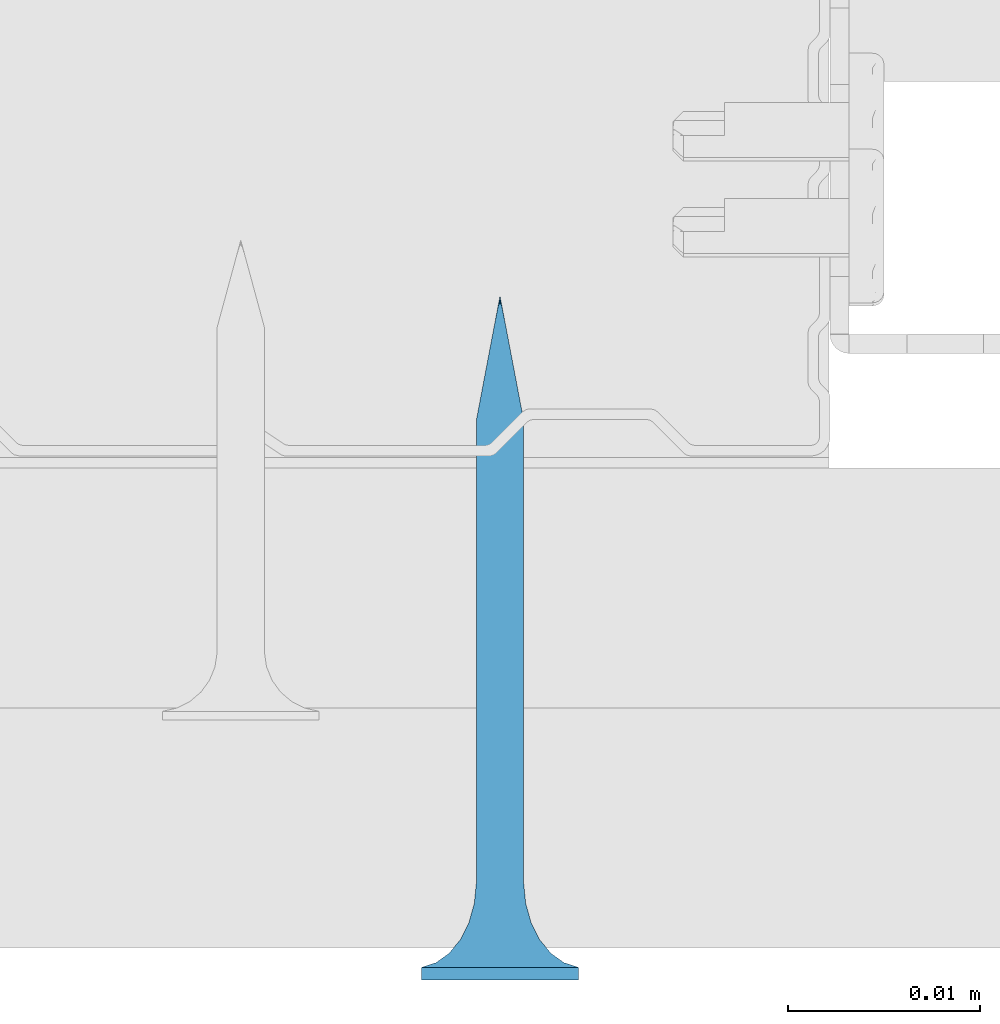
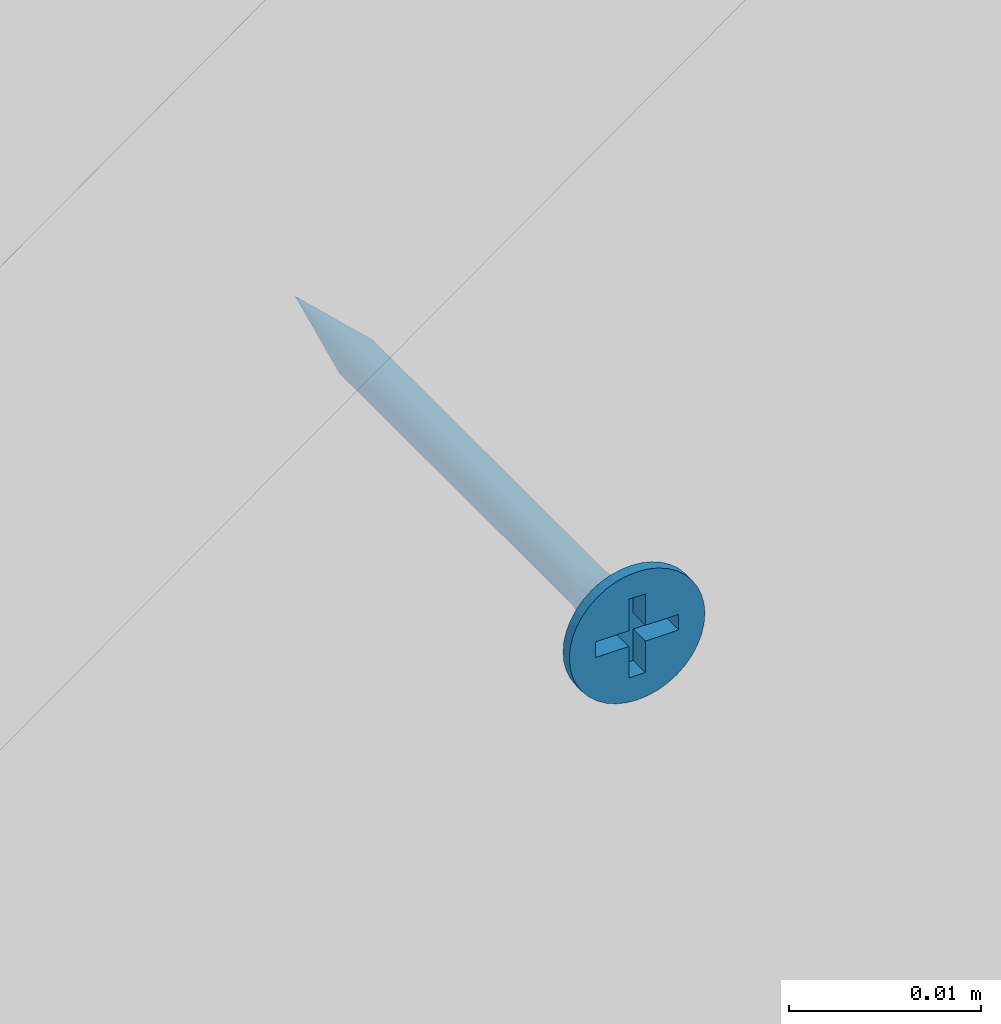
# One storey, part 7 of 48: 1 wall.
"""IFC2X3 building model written with IfcOpenShell, lengths in millimetres."""

from ifc_helpers import new_model, entity, si_unit, converted_unit, direction, frame, origin, origin_with_axes, place, context, project, spatial, faceted_brep, element, save


model = new_model("IFC2X3")

# Units and contexts
model_context = context("Model", 3, precision=1e-05, world=origin(), true_north=direction((0.0, 1.0, 0.0)))
ifc_project = project(units=[si_unit("LENGTHUNIT", "METRE", prefix="MILLI"), si_unit("AREAUNIT", "SQUARE_METRE"), si_unit("VOLUMEUNIT", "CUBIC_METRE"), converted_unit("PLANEANGLEUNIT", "DEGREE", entity("IfcPlaneAngleMeasure", 0.01745), si_unit("PLANEANGLEUNIT", "RADIAN"), dimensions=[0, 0, 0, 0, 0, 0, 0]), si_unit("SOLIDANGLEUNIT", "STERADIAN"), si_unit("MASSUNIT", "GRAM"), si_unit("TIMEUNIT", "SECOND"), si_unit("THERMODYNAMICTEMPERATUREUNIT", "DEGREE_CELSIUS"), si_unit("LUMINOUSINTENSITYUNIT", "LUMEN")], contexts=[model_context])

# Site, building, storey
site_placement = place(None, origin_with_axes())
site = spatial("IfcSite", under=ifc_project, at=site_placement, Name="Default Site", CompositionType="ELEMENT")
building_placement = place(site_placement, origin_with_axes())
building = spatial("IfcBuilding", under=site, at=building_placement, Name="Default Building", CompositionType="ELEMENT")
storey_placement = place(building_placement, origin_with_axes())
storey = spatial("IfcBuildingStorey", under=building, at=storey_placement, Name="Default Building Storey", CompositionType="ELEMENT", Elevation=0.0)

# Wall
wall_placement = place(storey_placement, frame((3036.210357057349, 6753.764107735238, -213.29814681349), z_axis=(0.0, 0.0, 1.0), x_axis=(1.0, 4.718447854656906e-16, 0.0)))
element("IfcWall", 1, at=wall_placement, inside=storey, Name="Wkręt RIGIPS TN 35", context=model_context, shape_type="Brep", body=[
    faceted_brep([(-141.5377463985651, -4832.598051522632, 555.8000000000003), (-141.5377463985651, -4833.259713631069, 555.8000000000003), (-141.4875329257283, -4833.259713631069, 555.1619773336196), (-141.4875329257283, -4832.598051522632, 555.1619773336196), (-141.3381289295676, -4833.259713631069, 554.5396649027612), (-141.3381289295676, -4832.598051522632, 554.5396649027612), (-141.0932132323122, -4833.259713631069, 553.9483861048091), (-141.0932132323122, -4832.598051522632, 553.9483861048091), (-140.7588164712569, -4833.259713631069, 553.4027001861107), (-140.7588164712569, -4832.598051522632, 553.4027001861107), (-140.3431726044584, -4833.259713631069, 552.9160437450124), (-140.4541727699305, -4832.598051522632, 553.0314907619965), (-140.1080097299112, -4832.598051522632, 552.6986614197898), (-139.8565161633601, -4833.259713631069, 552.5003998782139), (-139.7251262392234, -4832.598051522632, 552.4088262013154), (-139.3108302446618, -4833.259713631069, 552.1660031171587), (-139.3108302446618, -4832.598051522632, 552.1660031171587), (-138.8708651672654, -4832.598051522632, 551.9735584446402), (-138.7195514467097, -4833.259713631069, 551.9210874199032), (-138.4113302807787, -4832.598051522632, 551.8341600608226), (-137.9385961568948, -4832.598051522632, 551.7497404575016), (-138.0972390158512, -4833.259713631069, 551.7716834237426), (-137.4592163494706, -4833.259713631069, 551.7214699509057), (-137.4592163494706, -4832.598051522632, 551.7214699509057), (-136.8211936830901, -4833.259713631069, 551.7716834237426), (-136.8211936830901, -4832.598051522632, 551.7716834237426), (-136.1988812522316, -4833.259713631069, 551.9210874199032), (-136.1988812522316, -4832.598051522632, 551.9210874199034), (-135.6076024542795, -4833.259713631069, 552.1660031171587), (-135.6076024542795, -4832.598051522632, 552.1660031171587), (-135.0619165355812, -4833.259713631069, 552.5003998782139), (-135.0619165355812, -4832.598051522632, 552.5003998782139), (-134.5752600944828, -4833.259713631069, 552.9160437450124), (-134.5752600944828, -4832.598051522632, 552.9160437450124), (-134.1596162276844, -4833.259713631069, 553.4027001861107), (-134.1596162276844, -4832.598051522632, 553.4027001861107), (-133.8252194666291, -4833.259713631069, 553.9483861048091), (-133.8252194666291, -4832.598051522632, 553.9483861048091), (-133.5803037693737, -4833.259713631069, 554.5396649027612), (-133.5803037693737, -4832.598051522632, 554.5396649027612), (-133.430899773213, -4833.259713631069, 556.4380226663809), (-133.430899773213, -4832.598051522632, 556.4380226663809), (-133.3806863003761, -4832.598051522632, 555.8000000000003), (-133.3806863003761, -4833.259713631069, 555.8000000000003), (-133.430899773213, -4832.598051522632, 555.1619773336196), (-133.430899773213, -4833.259713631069, 555.1619773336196), (-133.5803037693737, -4833.259713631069, 557.0603350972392), (-133.5803037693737, -4832.598051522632, 557.0603350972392), (-133.8252194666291, -4833.259713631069, 557.6516138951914), (-133.8252194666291, -4832.598051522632, 557.6516138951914), (-134.1596162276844, -4833.259713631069, 558.1972998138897), (-134.1596162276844, -4832.598051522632, 558.1972998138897), (-134.5752600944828, -4833.259713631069, 558.683956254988), (-134.5752600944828, -4832.598051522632, 558.683956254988), (-135.0619165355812, -4833.259713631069, 559.0996001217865), (-135.0619165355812, -4832.598051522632, 559.0996001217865), (-135.6076024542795, -4833.259713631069, 559.4339968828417), (-135.6076024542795, -4832.598051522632, 559.4339968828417), (-136.1988812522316, -4833.259713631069, 559.6789125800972), (-136.1988812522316, -4832.598051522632, 559.6789125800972), (-136.8211936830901, -4833.259713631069, 559.8283165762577), (-136.8211936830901, -4832.598051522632, 559.8283165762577), (-137.4592163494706, -4833.259713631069, 559.8785300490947), (-137.4592163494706, -4832.598051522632, 559.8785300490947), (-138.0972390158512, -4833.259713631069, 559.8283165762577), (-138.0972390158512, -4832.598051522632, 559.8283165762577), (-138.7195514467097, -4833.259713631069, 559.6789125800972), (-138.7195514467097, -4832.598051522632, 559.6789125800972), (-139.3108302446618, -4833.259713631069, 559.4339968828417), (-139.3108302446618, -4832.598051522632, 559.4339968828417), (-139.8565161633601, -4833.259713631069, 559.0996001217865), (-139.8565161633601, -4832.598051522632, 559.0996001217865), (-140.3431726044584, -4833.259713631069, 558.683956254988), (-140.3431726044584, -4832.598051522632, 558.683956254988), (-140.7588164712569, -4833.259713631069, 558.1972998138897), (-140.7588164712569, -4832.598051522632, 558.1972998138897), (-141.0932132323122, -4833.259713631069, 557.6516138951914), (-141.0932132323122, -4832.598051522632, 557.6516138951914), (-141.3381289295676, -4833.259713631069, 557.0603350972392), (-141.3381289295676, -4832.598051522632, 557.0603350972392), (-141.4875329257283, -4833.259713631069, 556.4380226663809), (-141.4875329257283, -4832.598051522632, 556.4380226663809), (-137.8060615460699, -4829.281368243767, 554.5055560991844), (-137.4592163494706, -4828.206294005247, 554.5693795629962), (-137.651727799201, -4828.206294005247, 554.5845305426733), (-137.4592163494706, -4829.281368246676, 554.4598930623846), (-137.83949897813, -4828.206294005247, 554.6296104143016), (-138.1292698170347, -4829.281368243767, 554.639433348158), (-138.0179063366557, -4828.206294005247, 554.7035091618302), (-138.1825568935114, -4828.206294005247, 554.804407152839), (-138.4068150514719, -4829.281368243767, 554.8524012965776), (-138.329396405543, -4828.206294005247, 554.929819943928), (-138.6197830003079, -4829.281368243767, 555.1299465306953), (-138.4548091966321, -4828.206294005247, 555.0766594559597), (-138.5557071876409, -4828.206294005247, 555.2413100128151), (-138.7536602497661, -4829.281368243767, 555.4531548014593), (-138.6296059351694, -4828.206294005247, 555.4197173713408), (-138.6746858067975, -4828.206294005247, 555.60748855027), (-138.7993232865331, -4829.281368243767, 555.7999999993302), (-138.6898367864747, -4828.206294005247, 555.8000000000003), (-138.753660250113, -4829.281368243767, 556.1468451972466), (-138.6746858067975, -4828.206294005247, 555.9925114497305), (-138.6296059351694, -4828.206294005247, 556.1802826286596), (-138.6197830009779, -4829.281368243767, 556.4700534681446), (-138.5557071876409, -4828.206294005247, 556.3586899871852), (-138.4548091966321, -4828.206294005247, 556.5233405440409), (-138.4068150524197, -4829.281368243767, 556.7475987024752), (-138.329396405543, -4828.206294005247, 556.6701800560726), (-138.1292698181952, -4829.281368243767, 556.9605666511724), (-138.1825568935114, -4828.206294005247, 556.7955928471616), (-138.0179063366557, -4828.206294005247, 556.8964908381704), (-137.8060615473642, -4829.281368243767, 557.0944439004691), (-137.83949897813, -4828.206294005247, 556.9703895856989), (-137.651727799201, -4828.206294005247, 557.0154694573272), (-137.4592163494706, -4829.281368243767, 557.1401069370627), (-137.4592163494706, -4828.206294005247, 557.0306204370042), (-137.112371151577, -4829.281368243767, 557.0944439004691), (-137.2667048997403, -4828.206294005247, 557.0154694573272), (-137.0789337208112, -4828.206294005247, 556.9703895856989), (-136.7891628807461, -4829.281368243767, 556.9605666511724), (-136.9005263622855, -4828.206294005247, 556.8964908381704), (-136.7358758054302, -4828.206294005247, 556.7955928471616), (-136.5116176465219, -4829.281368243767, 556.7475987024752), (-136.5890362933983, -4828.206294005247, 556.6701800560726), (-136.2986496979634, -4829.281368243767, 556.4700534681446), (-136.4636235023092, -4828.206294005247, 556.5233405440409), (-136.3627255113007, -4828.206294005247, 556.3586899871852), (-136.1647724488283, -4829.281368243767, 556.1468451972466), (-136.2888267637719, -4828.206294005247, 556.1802826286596), (-136.2437468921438, -4828.206294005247, 555.9925114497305), (-136.1191094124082, -4829.281368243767, 555.7999999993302), (-136.2285959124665, -4828.206294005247, 555.8000000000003), (-136.1647724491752, -4829.281368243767, 555.4531548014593), (-136.2437468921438, -4828.206294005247, 555.60748855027), (-136.2888267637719, -4828.206294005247, 555.4197173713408), (-136.2986496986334, -4829.281368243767, 555.1299465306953), (-136.3627255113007, -4828.206294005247, 555.2413100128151), (-136.4636235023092, -4828.206294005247, 555.0766594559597), (-136.5116176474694, -4829.281368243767, 554.8524012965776), (-136.5890362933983, -4828.206294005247, 554.929819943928), (-136.7891628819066, -4829.281368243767, 554.639433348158), (-136.7358758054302, -4828.206294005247, 554.804407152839), (-136.9005263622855, -4828.206294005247, 554.7035091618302), (-137.1123711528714, -4829.281368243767, 554.5055560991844), (-137.0789337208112, -4828.206294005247, 554.6296104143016), (-137.2667048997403, -4828.206294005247, 554.5845305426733), (-137.4592163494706, -4830.288222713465, 554.1737111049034), (-137.8801308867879, -4830.288222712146, 554.229125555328), (-138.2723607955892, -4830.288222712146, 554.3915925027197), (-138.6091762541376, -4830.288222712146, 554.6500400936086), (-138.8676238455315, -4830.288222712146, 554.9868555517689), (-139.0300907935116, -4830.288222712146, 555.3790854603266), (-139.0855052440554, -4830.288222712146, 555.7999999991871), (-139.0300907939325, -4830.288222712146, 556.2209145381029), (-138.8676238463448, -4830.288222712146, 556.6131444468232), (-138.6091762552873, -4830.288222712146, 556.9499599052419), (-138.2723607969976, -4830.288222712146, 557.2084074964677), (-137.8801308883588, -4830.288222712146, 557.3708744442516), (-137.4592163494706, -4830.288222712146, 557.426288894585), (-137.0383018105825, -4830.288222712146, 557.3708744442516), (-136.6460719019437, -4830.288222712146, 557.2084074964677), (-136.309256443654, -4830.288222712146, 556.9499599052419), (-136.0508088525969, -4830.288222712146, 556.6131444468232), (-135.8883419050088, -4830.288222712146, 556.2209145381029), (-135.8329274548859, -4830.288222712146, 555.7999999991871), (-135.8883419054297, -4830.288222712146, 555.3790854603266), (-136.0508088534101, -4830.288222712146, 554.9868555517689), (-136.309256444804, -4830.288222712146, 554.6500400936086), (-136.6460719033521, -4830.288222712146, 554.3915925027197), (-137.0383018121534, -4830.288222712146, 554.229125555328), (-137.4592163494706, -4831.168773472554, 553.7273431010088), (-137.9956594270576, -4831.168773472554, 553.7979671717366), (-138.4955447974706, -4831.168773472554, 554.005026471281), (-138.9248060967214, -4831.168773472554, 554.3344102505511), (-139.2541898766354, -4831.168773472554, 554.7636715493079), (-139.4612491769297, -4831.168773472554, 555.2635569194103), (-139.5318732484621, -4831.168773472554, 555.7999999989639), (-139.461249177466, -4831.168773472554, 556.3364430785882), (-139.2541898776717, -4831.168773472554, 556.8363284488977), (-138.9248060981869, -4831.168773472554, 557.2655897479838), (-138.4955447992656, -4831.168773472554, 557.594973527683), (-137.9956594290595, -4831.168773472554, 557.8020328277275), (-137.4592163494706, -4831.168773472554, 557.8726568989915), (-136.9227732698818, -4831.168773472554, 557.8020328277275), (-136.4228878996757, -4831.168773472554, 557.594973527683), (-135.9936266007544, -4831.168773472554, 557.2655897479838), (-135.6642428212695, -4831.168773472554, 556.8363284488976), (-135.4571835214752, -4831.168773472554, 556.3364430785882), (-135.3865594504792, -4831.168773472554, 555.7999999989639), (-135.4571835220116, -4831.168773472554, 555.2635569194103), (-135.6642428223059, -4831.168773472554, 554.7636715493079), (-135.9936266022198, -4831.168773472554, 554.3344102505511), (-136.4228879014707, -4831.168773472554, 554.005026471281), (-136.9227732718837, -4831.168773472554, 553.7979671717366), (-137.4592163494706, -4831.872222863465, 553.1465393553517), (-138.1459824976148, -4831.872222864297, 553.2369538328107), (-138.7859466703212, -4831.872222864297, 553.5020356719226), (-139.3354963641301, -4831.872222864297, 553.9237199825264), (-139.7571806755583, -4831.872222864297, 554.4732696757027), (-140.02226251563, -4831.872222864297, 555.1132338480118), (-140.1126769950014, -4831.872222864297, 555.7999999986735), (-140.0222625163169, -4831.872222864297, 556.4867661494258), (-139.7571806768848, -4831.872222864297, 557.1267303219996), (-139.3354963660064, -4831.872222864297, 557.6762800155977), (-138.785946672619, -4831.872222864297, 558.0979643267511), (-138.1459825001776, -4831.872222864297, 558.3630461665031), (-137.4592163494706, -4831.872222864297, 558.4534606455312), (-136.7724501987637, -4831.872222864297, 558.3630461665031), (-136.1324860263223, -4831.872222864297, 558.0979643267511), (-135.5829363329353, -4831.872222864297, 557.6762800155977), (-135.1612520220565, -4831.872222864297, 557.1267303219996), (-134.8961701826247, -4831.872222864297, 556.4867661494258), (-134.8057557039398, -4831.872222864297, 555.7999999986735), (-134.8961701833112, -4831.872222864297, 555.1132338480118), (-135.161252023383, -4831.872222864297, 554.4732696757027), (-135.5829363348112, -4831.872222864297, 553.9237199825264), (-136.1324860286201, -4831.872222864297, 553.5020356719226), (-136.7724502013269, -4831.872222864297, 553.2369538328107), (-137.4592163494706, -4832.357989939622, 552.4648055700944), (-138.3224281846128, -4832.357989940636, 552.578449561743), (-139.1268135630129, -4832.357989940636, 552.9116368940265), (-139.8175549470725, -4832.357989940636, 553.4416613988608), (-140.3475794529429, -4832.357989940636, 554.1324027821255), (-140.6807667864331, -4832.357989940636, 554.9367881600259), (-140.7944107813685, -4832.357989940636, 555.7999999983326), (-140.6807667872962, -4832.357989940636, 556.6632118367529), (-140.3475794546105, -4832.357989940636, 557.4675972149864), (-139.817554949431, -4832.357989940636, 558.1583385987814), (-139.1268135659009, -4832.357989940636, 558.6883631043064), (-138.3224281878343, -4832.357989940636, 559.0215504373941), (-137.4592163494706, -4832.357989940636, 559.1351944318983), (-136.5960045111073, -4832.357989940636, 559.0215504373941), (-135.7916191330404, -4832.357989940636, 558.6883631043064), (-135.1008777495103, -4832.357989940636, 558.1583385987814), (-134.5708532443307, -4832.357989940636, 557.4675972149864), (-134.2376659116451, -4832.357989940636, 556.6632118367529), (-134.1240219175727, -4832.357989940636, 555.7999999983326), (-134.2376659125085, -4832.357989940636, 554.9367881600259), (-134.5708532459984, -4832.357989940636, 554.1324027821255), (-135.1008777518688, -4832.357989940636, 553.4416613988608), (-135.7916191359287, -4832.357989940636, 552.9116368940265), (-136.5960045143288, -4832.357989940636, 552.578449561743), (-138.6898367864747, -4804.093757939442, 555.8000000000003), (-138.6746858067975, -4804.093757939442, 555.60748855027), (-138.6296059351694, -4804.093757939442, 555.4197173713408), (-138.5557071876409, -4804.093757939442, 555.2413100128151), (-138.4548091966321, -4804.093757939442, 555.0766594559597), (-138.329396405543, -4804.093757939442, 554.929819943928), (-138.1825568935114, -4804.093757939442, 554.804407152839), (-138.0179063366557, -4804.093757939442, 554.7035091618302), (-137.83949897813, -4804.093757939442, 554.6296104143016), (-137.651727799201, -4804.093757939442, 554.5845305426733), (-137.4592163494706, -4804.093757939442, 554.5693795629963), (-137.2667048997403, -4804.093757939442, 554.5845305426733), (-137.0789337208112, -4804.093757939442, 554.6296104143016), (-136.9005263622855, -4804.093757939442, 554.7035091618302), (-136.7358758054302, -4804.093757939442, 554.804407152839), (-136.5890362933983, -4804.093757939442, 554.929819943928), (-136.4636235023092, -4804.093757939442, 555.0766594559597), (-136.3627255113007, -4804.093757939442, 555.2413100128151), (-136.2888267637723, -4804.093757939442, 555.4197173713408), (-136.2437468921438, -4804.093757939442, 555.9925114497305), (-136.2285959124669, -4804.093757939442, 555.8000000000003), (-136.2437468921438, -4804.093757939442, 555.60748855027), (-136.2888267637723, -4804.093757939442, 556.1802826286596), (-136.3627255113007, -4804.093757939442, 556.3586899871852), (-136.4636235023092, -4804.093757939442, 556.5233405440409), (-136.5890362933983, -4804.093757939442, 556.6701800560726), (-136.7358758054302, -4804.093757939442, 556.7955928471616), (-136.9005263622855, -4804.093757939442, 556.8964908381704), (-137.0789337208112, -4804.093757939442, 556.9703895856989), (-137.2667048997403, -4804.093757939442, 557.0154694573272), (-137.4592163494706, -4804.093757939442, 557.0306204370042), (-137.651727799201, -4804.093757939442, 557.0154694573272), (-137.83949897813, -4804.093757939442, 556.9703895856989), (-138.0179063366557, -4804.093757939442, 556.8964908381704), (-138.1825568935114, -4804.093757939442, 556.7955928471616), (-138.329396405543, -4804.093757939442, 556.6701800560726), (-138.4548091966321, -4804.093757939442, 556.5233405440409), (-138.5557071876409, -4804.093757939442, 556.3586899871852), (-138.6296059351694, -4804.093757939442, 556.1802826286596), (-138.6746858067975, -4804.093757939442, 555.9925114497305), (-137.4592163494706, -4797.627063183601, 555.8000000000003), (-139.9592163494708, -4833.259713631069, 556.3000000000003), (-137.9592163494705, -4833.259713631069, 556.3000000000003), (-139.9592163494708, -4833.259713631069, 555.3000000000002), (-137.9592163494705, -4833.259713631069, 555.3000000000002), (-137.9592163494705, -4833.259713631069, 553.3000000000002), (-136.9592163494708, -4833.259713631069, 553.3000000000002), (-136.9592163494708, -4833.259713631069, 555.3000000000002), (-134.9592163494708, -4833.259713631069, 555.3000000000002), (-134.9592163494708, -4833.259713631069, 556.3000000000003), (-136.9592163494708, -4833.259713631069, 556.3000000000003), (-136.9592163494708, -4833.259713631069, 558.3000000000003), (-137.9592163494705, -4833.259713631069, 558.3000000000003), (-136.9592163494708, -4831.988379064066, 556.3000000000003), (-134.9592163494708, -4831.988379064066, 556.3000000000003), (-134.9592163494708, -4831.988379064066, 555.3000000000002), (-136.9592163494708, -4831.988379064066, 555.3000000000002), (-136.9592163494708, -4831.988379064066, 553.3000000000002), (-137.9592163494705, -4831.988379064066, 553.3000000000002), (-137.9592163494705, -4831.988379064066, 555.3000000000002), (-139.9592163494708, -4831.988379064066, 555.3000000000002), (-139.9592163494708, -4831.988379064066, 556.3000000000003), (-137.9592163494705, -4831.988379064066, 556.3000000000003), (-137.9592163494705, -4831.988379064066, 558.3000000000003), (-136.9592163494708, -4831.988379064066, 558.3000000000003)], [[[0, 1, 2, 3]], [[4, 5, 3, 2]], [[6, 7, 5, 4]], [[7, 6, 8, 9]], [[8, 10, 9]], [[10, 11, 9]], [[12, 11, 13]], [[11, 10, 13]], [[13, 14, 12]], [[13, 15, 14]], [[15, 16, 14]], [[17, 16, 18]], [[16, 15, 18]], [[18, 19, 17]], [[20, 19, 21]], [[19, 18, 21]], [[21, 22, 20]], [[22, 23, 20]], [[23, 22, 24, 25]], [[26, 27, 25, 24]], [[28, 29, 27, 26]], [[29, 28, 30, 31]], [[32, 33, 31, 30]], [[33, 32, 34, 35]], [[36, 37, 35, 34]], [[38, 39, 37, 36]], [[40, 41, 42, 43]], [[43, 42, 44, 45]], [[39, 38, 45, 44]], [[46, 47, 41, 40]], [[48, 49, 47, 46]], [[49, 48, 50, 51]], [[52, 53, 51, 50]], [[53, 52, 54, 55]], [[56, 57, 55, 54]], [[58, 59, 57, 56]], [[59, 58, 60, 61]], [[62, 63, 61, 60]], [[63, 62, 64, 65]], [[66, 67, 65, 64]], [[68, 69, 67, 66]], [[69, 68, 70, 71]], [[72, 73, 71, 70]], [[73, 72, 74, 75]], [[76, 77, 75, 74]], [[78, 79, 77, 76]], [[79, 78, 80, 81]], [[1, 0, 81, 80]], [[82, 83, 84]], [[82, 85, 83]], [[84, 86, 82]], [[82, 86, 87]], [[88, 87, 86]], [[87, 88, 89]], [[89, 90, 87]], [[89, 91, 90]], [[92, 91, 93]], [[92, 90, 91]], [[93, 94, 92]], [[92, 94, 95]], [[96, 95, 94]], [[95, 96, 97]], [[97, 98, 95]], [[97, 99, 98]], [[100, 99, 101]], [[100, 98, 99]], [[101, 102, 100]], [[100, 102, 103]], [[104, 103, 102]], [[103, 104, 105]], [[105, 106, 103]], [[105, 107, 106]], [[108, 107, 109]], [[108, 106, 107]], [[109, 110, 108]], [[108, 110, 111]], [[112, 111, 110]], [[111, 112, 113]], [[113, 114, 111]], [[113, 115, 114]], [[116, 115, 117]], [[116, 114, 115]], [[117, 118, 116]], [[116, 118, 119]], [[120, 119, 118]], [[119, 120, 121]], [[121, 122, 119]], [[121, 123, 122]], [[124, 123, 125]], [[124, 122, 123]], [[125, 126, 124]], [[124, 126, 127]], [[128, 127, 126]], [[127, 128, 129]], [[129, 130, 127]], [[129, 131, 130]], [[132, 131, 133]], [[132, 130, 131]], [[133, 134, 132]], [[132, 134, 135]], [[136, 135, 134]], [[135, 136, 137]], [[137, 138, 135]], [[137, 139, 138]], [[140, 139, 141]], [[140, 138, 139]], [[141, 142, 140]], [[140, 142, 143]], [[144, 143, 142]], [[143, 144, 145]], [[145, 85, 143]], [[145, 83, 85]], [[146, 85, 147]], [[82, 147, 85]], [[87, 148, 147, 82]], [[90, 149, 148, 87]], [[92, 150, 149, 90]], [[95, 151, 150, 92]], [[98, 152, 151, 95]], [[100, 153, 152, 98]], [[103, 154, 153, 100]], [[106, 155, 154, 103]], [[108, 156, 155, 106]], [[111, 157, 156, 108]], [[114, 158, 157, 111]], [[116, 159, 158, 114]], [[119, 160, 159, 116]], [[122, 161, 160, 119]], [[124, 162, 161, 122]], [[127, 163, 162, 124]], [[130, 164, 163, 127]], [[132, 165, 164, 130]], [[135, 166, 165, 132]], [[138, 167, 166, 135]], [[140, 168, 167, 138]], [[143, 169, 168, 140]], [[143, 85, 169]], [[146, 169, 85]], [[170, 146, 171]], [[147, 171, 146]], [[148, 172, 171, 147]], [[149, 173, 172, 148]], [[150, 174, 173, 149]], [[151, 175, 174, 150]], [[152, 176, 175, 151]], [[153, 177, 176, 152]], [[154, 178, 177, 153]], [[155, 179, 178, 154]], [[156, 180, 179, 155]], [[157, 181, 180, 156]], [[158, 182, 181, 157]], [[159, 183, 182, 158]], [[160, 184, 183, 159]], [[161, 185, 184, 160]], [[162, 186, 185, 161]], [[163, 187, 186, 162]], [[164, 188, 187, 163]], [[165, 189, 188, 164]], [[166, 190, 189, 165]], [[167, 191, 190, 166]], [[168, 192, 191, 167]], [[169, 193, 192, 168]], [[169, 146, 193]], [[170, 193, 146]], [[194, 170, 195]], [[171, 195, 170]], [[172, 196, 195, 171]], [[173, 197, 196, 172]], [[174, 198, 197, 173]], [[175, 199, 198, 174]], [[176, 200, 199, 175]], [[177, 201, 200, 176]], [[178, 202, 201, 177]], [[179, 203, 202, 178]], [[180, 204, 203, 179]], [[181, 205, 204, 180]], [[182, 206, 205, 181]], [[183, 207, 206, 182]], [[184, 208, 207, 183]], [[185, 209, 208, 184]], [[186, 210, 209, 185]], [[187, 211, 210, 186]], [[188, 212, 211, 187]], [[189, 213, 212, 188]], [[190, 214, 213, 189]], [[191, 215, 214, 190]], [[192, 216, 215, 191]], [[193, 217, 216, 192]], [[193, 170, 217]], [[194, 217, 170]], [[218, 19, 20]], [[218, 219, 19]], [[20, 23, 218]], [[218, 194, 219]], [[195, 219, 194]], [[219, 16, 17]], [[219, 220, 16]], [[17, 19, 219]], [[196, 220, 219, 195]], [[221, 11, 12]], [[220, 12, 14]], [[220, 221, 12]], [[14, 16, 220]], [[197, 221, 220, 196]], [[222, 7, 9]], [[9, 221, 222]], [[9, 11, 221]], [[198, 222, 221, 197]], [[5, 7, 223]], [[222, 223, 7]], [[199, 223, 222, 198]], [[223, 0, 3]], [[223, 224, 0]], [[3, 5, 223]], [[200, 224, 223, 199]], [[225, 79, 81]], [[81, 224, 225]], [[81, 0, 224]], [[201, 225, 224, 200]], [[225, 226, 77, 79]], [[202, 226, 225, 201]], [[226, 73, 75]], [[226, 227, 73]], [[75, 77, 226]], [[203, 227, 226, 202]], [[228, 69, 71]], [[71, 227, 228]], [[71, 73, 227]], [[204, 228, 227, 203]], [[228, 229, 67, 69]], [[205, 229, 228, 204]], [[229, 63, 65]], [[229, 230, 63]], [[65, 67, 229]], [[206, 230, 229, 205]], [[231, 59, 61]], [[61, 230, 231]], [[61, 63, 230]], [[207, 231, 230, 206]], [[231, 232, 57, 59]], [[208, 232, 231, 207]], [[232, 53, 55]], [[232, 233, 53]], [[55, 57, 232]], [[209, 233, 232, 208]], [[234, 49, 51]], [[51, 233, 234]], [[51, 53, 233]], [[210, 234, 233, 209]], [[234, 235, 47, 49]], [[211, 235, 234, 210]], [[235, 42, 41]], [[235, 236, 42]], [[41, 47, 235]], [[212, 236, 235, 211]], [[237, 39, 44]], [[44, 236, 237]], [[44, 42, 236]], [[213, 237, 236, 212]], [[37, 39, 238]], [[237, 238, 39]], [[214, 238, 237, 213]], [[238, 33, 35]], [[238, 239, 33]], [[35, 37, 238]], [[215, 239, 238, 214]], [[240, 29, 31]], [[31, 239, 240]], [[31, 33, 239]], [[216, 240, 239, 215]], [[27, 29, 241]], [[240, 241, 29]], [[217, 241, 240, 216]], [[217, 194, 241]], [[218, 241, 194]], [[241, 23, 25]], [[241, 218, 23]], [[25, 27, 241]], [[242, 99, 97, 243]], [[96, 244, 243, 97]], [[94, 245, 244, 96]], [[245, 94, 93, 246]], [[91, 247, 246, 93]], [[247, 91, 89, 248]], [[88, 249, 248, 89]], [[86, 250, 249, 88]], [[250, 86, 84, 251]], [[83, 252, 251, 84]], [[252, 83, 145, 253]], [[144, 254, 253, 145]], [[142, 255, 254, 144]], [[255, 142, 141, 256]], [[139, 257, 256, 141]], [[257, 139, 137, 258]], [[136, 259, 258, 137]], [[134, 260, 259, 136]], [[129, 261, 262, 131]], [[131, 262, 263, 133]], [[260, 134, 133, 263]], [[128, 264, 261, 129]], [[126, 265, 264, 128]], [[265, 126, 125, 266]], [[123, 267, 266, 125]], [[267, 123, 121, 268]], [[120, 269, 268, 121]], [[118, 270, 269, 120]], [[270, 118, 117, 271]], [[115, 272, 271, 117]], [[272, 115, 113, 273]], [[112, 274, 273, 113]], [[110, 275, 274, 112]], [[275, 110, 109, 276]], [[107, 277, 276, 109]], [[277, 107, 105, 278]], [[104, 279, 278, 105]], [[102, 280, 279, 104]], [[280, 102, 101, 281]], [[99, 242, 281, 101]], [[243, 244, 282]], [[282, 242, 243]], [[244, 245, 282]], [[246, 247, 282]], [[282, 245, 246]], [[248, 249, 282]], [[282, 247, 248]], [[249, 250, 282]], [[251, 252, 282]], [[282, 250, 251]], [[253, 254, 282]], [[282, 252, 253]], [[254, 255, 282]], [[256, 257, 282]], [[282, 255, 256]], [[258, 259, 282]], [[282, 257, 258]], [[259, 260, 282]], [[263, 262, 282]], [[282, 260, 263]], [[261, 264, 282]], [[282, 262, 261]], [[264, 265, 282]], [[266, 267, 282]], [[282, 265, 266]], [[268, 269, 282]], [[282, 267, 268]], [[269, 270, 282]], [[271, 272, 282]], [[282, 270, 271]], [[273, 274, 282]], [[282, 272, 273]], [[274, 275, 282]], [[276, 277, 282]], [[282, 275, 276]], [[278, 279, 282]], [[282, 277, 278]], [[279, 280, 282]], [[281, 242, 282]], [[282, 280, 281]], [[283, 76, 74, 284]], [[283, 285, 286, 287, 288, 289, 290, 291, 292, 293, 294, 284, 74, 72, 70, 68, 66, 64, 62, 60, 58, 56, 54, 52, 50, 48, 46, 40, 43, 45, 38, 36, 34, 32, 30, 28, 26, 24, 22, 21, 18, 15, 13, 10, 8, 6, 4, 2, 1, 80, 78, 76]], [[295, 296, 297, 298, 299, 300, 301, 302, 303, 304, 305, 306]], [[297, 290, 289, 298]], [[296, 291, 290, 297]], [[295, 292, 291, 296]], [[306, 293, 292, 295]], [[305, 294, 293, 306]], [[304, 284, 294, 305]], [[303, 283, 284, 304]], [[302, 285, 283, 303]], [[301, 286, 285, 302]], [[300, 287, 286, 301]], [[299, 288, 287, 300]], [[298, 289, 288, 299]]]),
])

save(model, "model.ifc")
